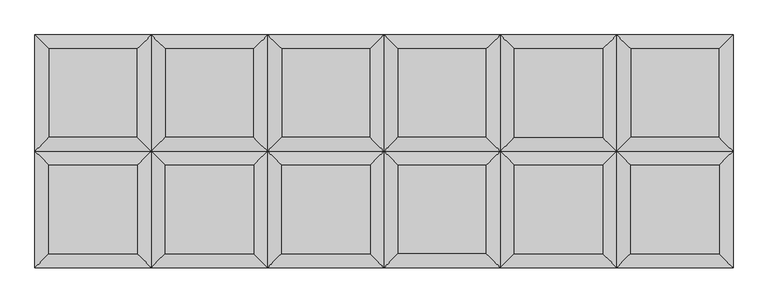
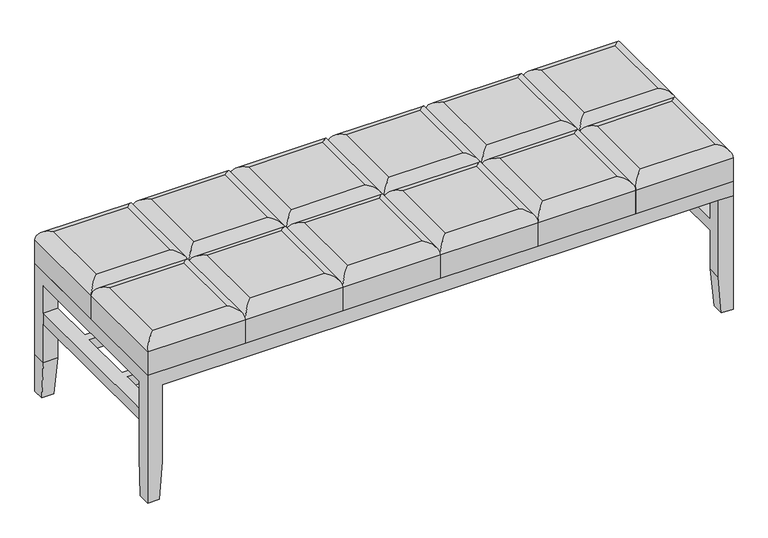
"""IFC4 building model written with IfcOpenShell, lengths in millimetres: furniture geometry, Coalesse_AM_Seating_Bench_Passerelle : 20D x 60W."""

from ifc_helpers import new_model, si_unit, frame, origin, place, context, project, spatial, ellipse_curve, faceted_brep, source, transform, mapped, element, save
from ifc_brep_helpers import plane_surface, cylinder_surface, advanced_brep


def furniture_b1196c01(model_context):
    return source(origin(), model_context, "Body", "SolidModel", [
        advanced_brep(
        [(-440.4626774, -266.0027195, 446.5766733), (-440.4626774, -73.0922303, 446.5766733), (-633.3731666, -73.0922303, 446.5766733), (-633.3731666, -266.0027195, 446.5766733), (-409.917922, -42.5474749, 351.3266733), (-409.917922, -296.5474749, 351.3266733), (-663.917922, -296.5474749, 351.3266733), (-663.917922, -42.5474749, 351.3266733), (-409.917922, -42.5474749, 416.0319179), (-409.917922, -296.5474749, 416.0319179), (-663.917922, -296.5474749, 416.0319179), (-663.917922, -42.5474749, 416.0319179)],
        [
            (0, 1),
            (1, 2),
            (2, 3),
            (3, 0),
            (4, 5),
            (5, 6),
            (6, 7),
            (7, 4),
            (8, 1, ellipse_curve(frame((-440.4626774, -73.0922303, 416.0319179), z_axis=(0.7071067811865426, -0.7071067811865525, 0.0), x_axis=(0.7071067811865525, 0.7071067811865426, 0.0)), 43.1968073, 30.5447554)),
            (0, 9, ellipse_curve(frame((-440.4626774, -266.0027195, 416.0319179), z_axis=(0.7071067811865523, 0.7071067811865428, 0.0), x_axis=(-0.7071067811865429, 0.7071067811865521, 0.0)), 43.1968073, 30.5447554)),
            (9, 8),
            (9, 5),
            (4, 8),
            (3, 10, ellipse_curve(frame((-633.3731666, -266.0027195, 416.0319179), z_axis=(0.7071067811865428, -0.7071067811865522, 0.0), x_axis=(0.7071067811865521, 0.7071067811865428, 0.0)), 43.1968073, 30.5447554)),
            (10, 9),
            (10, 6),
            (2, 11, ellipse_curve(frame((-633.3731666, -73.0922303, 416.0319179), z_axis=(-0.7071067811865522, -0.7071067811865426, 0.0), x_axis=(0.7071067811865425, -0.7071067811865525, 0.0)), 43.1968073, 30.5447554)),
            (11, 10),
            (11, 7),
            (8, 11),
        ],
        [
            plane_surface(frame((-625.817922, -80.6474749, 446.5766733), z_axis=(0.0, 0.0, 1.0), x_axis=(-1.0, 0.0, 0.0))),
            plane_surface(frame((-625.817922, -80.6474749, 351.3266733), z_axis=(0.0, 0.0, -1.0), x_axis=(1.0, 0.0, 0.0))),
            cylinder_surface(frame((-440.4626774, -42.5474749, 416.0319179), z_axis=(0.0, 1.0, 0.0), x_axis=(1.0, 0.0, 0.0)), 30.5447554),
            plane_surface(frame((-409.917922, -42.5474749, 416.0319179), z_axis=(1.0, 0.0, 0.0), x_axis=(0.0, -1.0, 0.0))),
            cylinder_surface(frame((-409.917922, -266.0027195, 416.0319179), z_axis=(1.0, 0.0, 0.0), x_axis=(0.0, -1.0, 0.0)), 30.5447554),
            plane_surface(frame((-409.917922, -296.5474749, 416.0319179), z_axis=(0.0, -1.0, 0.0), x_axis=(-1.0, 0.0, 0.0))),
            cylinder_surface(frame((-633.3731666, -296.5474749, 416.0319179), z_axis=(0.0, -1.0, 0.0), x_axis=(-1.0, 0.0, 0.0)), 30.5447554),
            plane_surface(frame((-663.917922, -296.5474749, 416.0319179), z_axis=(-1.0, 0.0, 0.0), x_axis=(0.0, 1.0, 0.0))),
            cylinder_surface(frame((-663.917922, -73.0922303, 416.0319179), z_axis=(-1.0, 0.0, 0.0), x_axis=(0.0, 1.0, 0.0)), 30.5447554),
            plane_surface(frame((-663.917922, -42.5474749, 416.0319179), z_axis=(0.0, 1.0, 0.0), x_axis=(1.0, 0.0, 0.0))),
        ],
        [
            (0, [[1, 2, 3, 4]]),
            (1, [[5, 6, 7, 8]]),
            (2, [[9, -1, 10, 11]]),
            (3, [[-11, 12, -5, 13]]),
            (4, [[-10, -4, 14, 15]]),
            (5, [[-12, -15, 16, -6]]),
            (6, [[-14, -3, 17, 18]]),
            (7, [[-16, -18, 19, -7]]),
            (8, [[-9, 20, -17, -2]]),
            (9, [[-13, -8, -19, -20]]),
        ],
    ),
        advanced_brep(
        [(-186.4626774, -266.0027195, 446.5766733), (-186.4626774, -73.0922303, 446.5766733), (-379.3731666, -73.0922303, 446.5766733), (-379.3731666, -266.0027195, 446.5766733), (-155.917922, -42.5474749, 351.3266733), (-155.917922, -296.5474749, 351.3266733), (-409.917922, -296.5474749, 351.3266733), (-409.917922, -42.5474749, 351.3266733), (-155.917922, -42.5474749, 416.0319179), (-155.917922, -296.5474749, 416.0319179), (-409.917922, -296.5474749, 416.0319179), (-409.917922, -42.5474749, 416.0319179)],
        [
            (0, 1),
            (1, 2),
            (2, 3),
            (3, 0),
            (4, 5),
            (5, 6),
            (6, 7),
            (7, 4),
            (8, 1, ellipse_curve(frame((-186.4626774, -73.0922303, 416.0319179), z_axis=(0.7071067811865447, -0.7071067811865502, 0.0), x_axis=(0.7071067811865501, 0.7071067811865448, 0.0)), 43.1968073, 30.5447554)),
            (0, 9, ellipse_curve(frame((-186.4626774, -266.0027195, 416.0319179), z_axis=(0.7071067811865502, 0.7071067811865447, 0.0), x_axis=(-0.7071067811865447, 0.7071067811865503, 0.0)), 43.1968073, 30.5447554)),
            (9, 8),
            (9, 5),
            (4, 8),
            (3, 10, ellipse_curve(frame((-379.3731666, -266.0027195, 416.0319179), z_axis=(0.7071067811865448, -0.7071067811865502, 0.0), x_axis=(0.7071067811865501, 0.7071067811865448, 0.0)), 43.1968073, 30.5447554)),
            (10, 9),
            (10, 6),
            (2, 11, ellipse_curve(frame((-379.3731666, -73.0922303, 416.0319179), z_axis=(-0.7071067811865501, -0.7071067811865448, 0.0), x_axis=(0.7071067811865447, -0.7071067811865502, 0.0)), 43.1968073, 30.5447554)),
            (11, 10),
            (11, 7),
            (8, 11),
        ],
        [
            plane_surface(frame((-371.817922, -80.6474749, 446.5766733), z_axis=(0.0, 0.0, 1.0), x_axis=(-1.0, 0.0, 0.0))),
            plane_surface(frame((-371.817922, -80.6474749, 351.3266733), z_axis=(0.0, 0.0, -1.0), x_axis=(1.0, 0.0, 0.0))),
            cylinder_surface(frame((-186.4626774, -42.5474749, 416.0319179), z_axis=(0.0, 1.0, 0.0), x_axis=(1.0, 0.0, 0.0)), 30.5447554),
            plane_surface(frame((-155.917922, -42.5474749, 416.0319179), z_axis=(1.0, 0.0, 0.0), x_axis=(0.0, -1.0, 0.0))),
            cylinder_surface(frame((-155.917922, -266.0027195, 416.0319179), z_axis=(1.0, 0.0, 0.0), x_axis=(0.0, -1.0, 0.0)), 30.5447554),
            plane_surface(frame((-155.917922, -296.5474749, 416.0319179), z_axis=(0.0, -1.0, 0.0), x_axis=(-1.0, 0.0, 0.0))),
            cylinder_surface(frame((-379.3731666, -296.5474749, 416.0319179), z_axis=(0.0, -1.0, 0.0), x_axis=(-1.0, 0.0, 0.0)), 30.5447554),
            plane_surface(frame((-409.917922, -296.5474749, 416.0319179), z_axis=(-1.0, 0.0, 0.0), x_axis=(0.0, 1.0, 0.0))),
            cylinder_surface(frame((-409.917922, -73.0922303, 416.0319179), z_axis=(-1.0, 0.0, 0.0), x_axis=(0.0, 1.0, 0.0)), 30.5447554),
            plane_surface(frame((-409.917922, -42.5474749, 416.0319179), z_axis=(0.0, 1.0, 0.0), x_axis=(1.0, 0.0, 0.0))),
        ],
        [
            (0, [[1, 2, 3, 4]]),
            (1, [[5, 6, 7, 8]]),
            (2, [[9, -1, 10, 11]]),
            (3, [[-11, 12, -5, 13]]),
            (4, [[-10, -4, 14, 15]]),
            (5, [[-12, -15, 16, -6]]),
            (6, [[-14, -3, 17, 18]]),
            (7, [[-16, -18, 19, -7]]),
            (8, [[-9, 20, -17, -2]]),
            (9, [[-13, -8, -19, -20]]),
        ],
    ),
        advanced_brep(
        [(67.5373226, -266.0027195, 446.5766733), (67.5373226, -73.0922303, 446.5766733), (-125.3731666, -73.0922303, 446.5766733), (-125.3731666, -266.0027195, 446.5766733), (98.082078, -42.5474749, 351.3266733), (98.082078, -296.5474749, 351.3266733), (-155.917922, -296.5474749, 351.3266733), (-155.917922, -42.5474749, 351.3266733), (98.082078, -42.5474749, 416.0319179), (98.082078, -296.5474749, 416.0319179), (-155.917922, -296.5474749, 416.0319179), (-155.917922, -42.5474749, 416.0319179)],
        [
            (0, 1),
            (1, 2),
            (2, 3),
            (3, 0),
            (4, 5),
            (5, 6),
            (6, 7),
            (7, 4),
            (8, 1, ellipse_curve(frame((67.5373226, -73.0922303, 416.0319179), z_axis=(0.7071067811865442, -0.7071067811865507, 0.0), x_axis=(0.7071067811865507, 0.7071067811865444, 0.0)), 43.1968073, 30.5447554)),
            (0, 9, ellipse_curve(frame((67.5373226, -266.0027195, 416.0319179), z_axis=(0.7071067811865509, 0.7071067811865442, 0.0), x_axis=(-0.7071067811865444, 0.7071067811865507, 0.0)), 43.1968073, 30.5447554)),
            (9, 8),
            (9, 5),
            (4, 8),
            (3, 10, ellipse_curve(frame((-125.3731666, -266.0027195, 416.0319179), z_axis=(0.7071067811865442, -0.7071067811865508, 0.0), x_axis=(0.7071067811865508, 0.7071067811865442, 0.0)), 43.1968073, 30.5447554)),
            (10, 9),
            (10, 6),
            (2, 11, ellipse_curve(frame((-125.3731666, -73.0922303, 416.0319179), z_axis=(-0.7071067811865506, -0.7071067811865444, 0.0), x_axis=(0.7071067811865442, -0.7071067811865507, 0.0)), 43.1968073, 30.5447554)),
            (11, 10),
            (11, 7),
            (8, 11),
        ],
        [
            plane_surface(frame((-117.817922, -80.6474749, 446.5766733), z_axis=(0.0, 0.0, 1.0), x_axis=(-1.0, 0.0, 0.0))),
            plane_surface(frame((-117.817922, -80.6474749, 351.3266733), z_axis=(0.0, 0.0, -1.0), x_axis=(1.0, 0.0, 0.0))),
            cylinder_surface(frame((67.5373226, -42.5474749, 416.0319179), z_axis=(0.0, 1.0, 0.0), x_axis=(1.0, 0.0, 0.0)), 30.5447554),
            plane_surface(frame((98.082078, -42.5474749, 416.0319179), z_axis=(1.0, 0.0, 0.0), x_axis=(0.0, -1.0, 0.0))),
            cylinder_surface(frame((98.082078, -266.0027195, 416.0319179), z_axis=(1.0, 0.0, 0.0), x_axis=(0.0, -1.0, 0.0)), 30.5447554),
            plane_surface(frame((98.082078, -296.5474749, 416.0319179), z_axis=(0.0, -1.0, 0.0), x_axis=(-1.0, 0.0, 0.0))),
            cylinder_surface(frame((-125.3731666, -296.5474749, 416.0319179), z_axis=(0.0, -1.0, 0.0), x_axis=(-1.0, 0.0, 0.0)), 30.5447554),
            plane_surface(frame((-155.917922, -296.5474749, 416.0319179), z_axis=(-1.0, 0.0, 0.0), x_axis=(0.0, 1.0, 0.0))),
            cylinder_surface(frame((-155.917922, -73.0922303, 416.0319179), z_axis=(-1.0, 0.0, 0.0), x_axis=(0.0, 1.0, 0.0)), 30.5447554),
            plane_surface(frame((-155.917922, -42.5474749, 416.0319179), z_axis=(0.0, 1.0, 0.0), x_axis=(1.0, 0.0, 0.0))),
        ],
        [
            (0, [[1, 2, 3, 4]]),
            (1, [[5, 6, 7, 8]]),
            (2, [[9, -1, 10, 11]]),
            (3, [[-11, 12, -5, 13]]),
            (4, [[-10, -4, 14, 15]]),
            (5, [[-12, -15, 16, -6]]),
            (6, [[-14, -3, 17, 18]]),
            (7, [[-16, -18, 19, -7]]),
            (8, [[-9, 20, -17, -2]]),
            (9, [[-13, -8, -19, -20]]),
        ],
    ),
        advanced_brep(
        [(352.082078, -42.5474749, 416.0319179), (321.5373226, -73.0922303, 446.5766733), (321.5373226, -266.0027195, 446.5766733), (352.082078, -296.5474749, 416.0319179), (352.082078, -296.5474749, 351.3266733), (352.082078, -42.5474749, 351.3266733), (128.6268334, -266.0027195, 446.5766733), (98.082078, -296.5474749, 416.0319179), (98.082078, -296.5474749, 351.3266733), (128.6268334, -73.0922303, 446.5766733), (98.082078, -42.5474749, 416.0319179), (98.082078, -42.5474749, 351.3266733)],
        [
            (0, 1, ellipse_curve(frame((321.5373226, -73.0922303, 416.0319179), z_axis=(0.7071067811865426, -0.7071067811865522, 0.0), x_axis=(0.7071067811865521, 0.7071067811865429, 0.0)), 43.1968073, 30.5447554)),
            (1, 2),
            (2, 3, ellipse_curve(frame((321.5373226, -266.0027195, 416.0319179), z_axis=(0.7071067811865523, 0.7071067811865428, 0.0), x_axis=(-0.7071067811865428, 0.7071067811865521, 0.0)), 43.1968073, 30.5447554)),
            (3, 0),
            (3, 4),
            (4, 5),
            (5, 0),
            (2, 6),
            (6, 7, ellipse_curve(frame((128.6268334, -266.0027195, 416.0319179), z_axis=(0.7071067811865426, -0.7071067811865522, 0.0), x_axis=(0.7071067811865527, 0.7071067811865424, 0.0)), 43.1968073, 30.5447554)),
            (7, 3),
            (7, 8),
            (8, 4),
            (6, 9),
            (9, 10, ellipse_curve(frame((128.6268334, -73.0922303, 416.0319179), z_axis=(-0.7071067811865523, -0.7071067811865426, 0.0), x_axis=(0.7071067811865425, -0.7071067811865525, 0.0)), 43.1968073, 30.5447554)),
            (10, 7),
            (10, 11),
            (11, 8),
            (1, 9),
            (0, 10),
            (5, 11),
        ],
        [
            cylinder_surface(frame((321.5373226, -42.5474749, 416.0319179), z_axis=(0.0, 1.0, 0.0), x_axis=(1.0, 0.0, 0.0)), 30.5447554),
            plane_surface(frame((352.082078, -42.5474749, 416.0319179), z_axis=(1.0, 0.0, 0.0), x_axis=(0.0, -1.0, 0.0))),
            cylinder_surface(frame((352.082078, -266.0027195, 416.0319179), z_axis=(1.0, 0.0, 0.0), x_axis=(0.0, -1.0, 0.0)), 30.5447554),
            plane_surface(frame((352.082078, -296.5474749, 416.0319179), z_axis=(0.0, -1.0, 0.0), x_axis=(-1.0, 0.0, 0.0))),
            cylinder_surface(frame((128.6268334, -296.5474749, 416.0319179), z_axis=(0.0, -1.0, 0.0), x_axis=(-1.0, 0.0, 0.0)), 30.5447554),
            plane_surface(frame((98.082078, -296.5474749, 416.0319179), z_axis=(-1.0, 0.0, 0.0), x_axis=(0.0, 1.0, 0.0))),
            plane_surface(frame((136.182078, -80.6474749, 446.5766733), z_axis=(0.0, 0.0, 1.0), x_axis=(1.0, 0.0, 0.0))),
            cylinder_surface(frame((98.082078, -73.0922303, 416.0319179), z_axis=(-1.0, 0.0, 0.0), x_axis=(0.0, 1.0, 0.0)), 30.5447554),
            plane_surface(frame((98.082078, -42.5474749, 416.0319179), z_axis=(0.0, 1.0, 0.0), x_axis=(1.0, 0.0, 0.0))),
            plane_surface(frame((98.082078, -42.5474749, 351.3266733), z_axis=(0.0, 0.0, -1.0), x_axis=(1.0, 0.0, 0.0))),
        ],
        [
            (0, [[1, 2, 3, 4]]),
            (1, [[-4, 5, 6, 7]]),
            (2, [[-3, 8, 9, 10]]),
            (3, [[-5, -10, 11, 12]]),
            (4, [[-9, 13, 14, 15]]),
            (5, [[-11, -15, 16, 17]]),
            (6, [[-2, 18, -13, -8]]),
            (7, [[-1, 19, -14, -18]]),
            (8, [[-7, 20, -16, -19]]),
            (9, [[-6, -12, -17, -20]]),
        ],
    ),
        advanced_brep(
        [(575.5373226, -266.0027195, 446.5766733), (575.5373226, -73.0922303, 446.5766733), (382.6268334, -73.0922303, 446.5766733), (382.6268334, -266.0027195, 446.5766733), (606.082078, -42.5474749, 351.3266733), (606.082078, -296.5474749, 351.3266733), (352.082078, -296.5474749, 351.3266733), (352.082078, -42.5474749, 351.3266733), (606.082078, -42.5474749, 416.0319179), (606.082078, -296.5474749, 416.0319179), (352.082078, -296.5474749, 416.0319179), (352.082078, -42.5474749, 416.0319179)],
        [
            (0, 1),
            (1, 2),
            (2, 3),
            (3, 0),
            (4, 5),
            (5, 6),
            (6, 7),
            (7, 4),
            (8, 1, ellipse_curve(frame((575.5373226, -73.0922303, 416.0319179), z_axis=(0.7071067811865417, -0.7071067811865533, 0.0), x_axis=(0.7071067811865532, 0.7071067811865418, 0.0)), 43.1968073, 30.5447554)),
            (0, 9, ellipse_curve(frame((575.5373226, -266.0027195, 416.0319179), z_axis=(0.7071067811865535, 0.7071067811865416, 0.0), x_axis=(-0.7071067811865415, 0.7071067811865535, 0.0)), 43.1968073, 30.5447554)),
            (9, 8),
            (9, 5),
            (4, 8),
            (3, 10, ellipse_curve(frame((382.6268334, -266.0027195, 416.0319179), z_axis=(0.7071067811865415, -0.7071067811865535, 0.0), x_axis=(0.7071067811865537, 0.7071067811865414, 0.0)), 43.1968073, 30.5447554)),
            (10, 9),
            (10, 6),
            (2, 11, ellipse_curve(frame((382.6268334, -73.0922303, 416.0319179), z_axis=(-0.7071067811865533, -0.7071067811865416, 0.0), x_axis=(0.7071067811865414, -0.7071067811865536, 0.0)), 43.1968073, 30.5447554)),
            (11, 10),
            (11, 7),
            (8, 11),
        ],
        [
            plane_surface(frame((390.182078, -80.6474749, 446.5766733), z_axis=(0.0, 0.0, 1.0), x_axis=(-1.0, 0.0, 0.0))),
            plane_surface(frame((390.182078, -80.6474749, 351.3266733), z_axis=(0.0, 0.0, -1.0), x_axis=(1.0, 0.0, 0.0))),
            cylinder_surface(frame((575.5373226, -42.5474749, 416.0319179), z_axis=(0.0, 1.0, 0.0), x_axis=(1.0, 0.0, 0.0)), 30.5447554),
            plane_surface(frame((606.082078, -42.5474749, 416.0319179), z_axis=(1.0, 0.0, 0.0), x_axis=(0.0, -1.0, 0.0))),
            cylinder_surface(frame((606.082078, -266.0027195, 416.0319179), z_axis=(1.0, 0.0, 0.0), x_axis=(0.0, -1.0, 0.0)), 30.5447554),
            plane_surface(frame((606.082078, -296.5474749, 416.0319179), z_axis=(0.0, -1.0, 0.0), x_axis=(-1.0, 0.0, 0.0))),
            cylinder_surface(frame((382.6268334, -296.5474749, 416.0319179), z_axis=(0.0, -1.0, 0.0), x_axis=(-1.0, 0.0, 0.0)), 30.5447554),
            plane_surface(frame((352.082078, -296.5474749, 416.0319179), z_axis=(-1.0, 0.0, 0.0), x_axis=(0.0, 1.0, 0.0))),
            cylinder_surface(frame((352.082078, -73.0922303, 416.0319179), z_axis=(-1.0, 0.0, 0.0), x_axis=(0.0, 1.0, 0.0)), 30.5447554),
            plane_surface(frame((352.082078, -42.5474749, 416.0319179), z_axis=(0.0, 1.0, 0.0), x_axis=(1.0, 0.0, 0.0))),
        ],
        [
            (0, [[1, 2, 3, 4]]),
            (1, [[5, 6, 7, 8]]),
            (2, [[9, -1, 10, 11]]),
            (3, [[-11, 12, -5, 13]]),
            (4, [[-10, -4, 14, 15]]),
            (5, [[-12, -15, 16, -6]]),
            (6, [[-14, -3, 17, 18]]),
            (7, [[-16, -18, 19, -7]]),
            (8, [[-9, 20, -17, -2]]),
            (9, [[-13, -8, -19, -20]]),
        ],
    ),
        advanced_brep(
        [(829.5373226, -266.0027195, 446.5766733), (829.5373226, -73.0922303, 446.5766733), (636.6268334, -73.0922303, 446.5766733), (636.6268334, -266.0027195, 446.5766733), (860.082078, -42.5474749, 351.3266733), (860.082078, -296.5474749, 351.3266733), (606.082078, -296.5474749, 351.3266733), (606.082078, -42.5474749, 351.3266733), (860.082078, -42.5474749, 416.0319179), (860.082078, -296.5474749, 416.0319179), (606.082078, -296.5474749, 416.0319179), (606.082078, -42.5474749, 416.0319179)],
        [
            (0, 1),
            (1, 2),
            (2, 3),
            (3, 0),
            (4, 5),
            (5, 6),
            (6, 7),
            (7, 4),
            (8, 1, ellipse_curve(frame((829.5373226, -73.0922303, 416.0319179), z_axis=(0.7071067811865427, -0.7071067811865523, 0.0), x_axis=(0.7071067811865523, 0.7071067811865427, 0.0)), 43.1968073, 30.5447554)),
            (0, 9, ellipse_curve(frame((829.5373226, -266.0027195, 416.0319179), z_axis=(0.7071067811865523, 0.7071067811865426, 0.0), x_axis=(-0.7071067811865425, 0.7071067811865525, 0.0)), 43.1968073, 30.5447554)),
            (9, 8),
            (9, 5),
            (4, 8),
            (3, 10, ellipse_curve(frame((636.6268334, -266.0027195, 416.0319179), z_axis=(0.7071067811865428, -0.7071067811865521, 0.0), x_axis=(0.7071067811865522, 0.7071067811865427, 0.0)), 43.1968073, 30.5447554)),
            (10, 9),
            (10, 6),
            (2, 11, ellipse_curve(frame((636.6268334, -73.0922303, 416.0319179), z_axis=(-0.7071067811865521, -0.7071067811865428, 0.0), x_axis=(0.7071067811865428, -0.7071067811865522, 0.0)), 43.1968073, 30.5447554)),
            (11, 10),
            (11, 7),
            (8, 11),
        ],
        [
            plane_surface(frame((644.182078, -80.6474749, 446.5766733), z_axis=(0.0, 0.0, 1.0), x_axis=(-1.0, 0.0, 0.0))),
            plane_surface(frame((644.182078, -80.6474749, 351.3266733), z_axis=(0.0, 0.0, -1.0), x_axis=(1.0, 0.0, 0.0))),
            cylinder_surface(frame((829.5373226, -42.5474749, 416.0319179), z_axis=(0.0, 1.0, 0.0), x_axis=(1.0, 0.0, 0.0)), 30.5447554),
            plane_surface(frame((860.082078, -42.5474749, 416.0319179), z_axis=(1.0, 0.0, 0.0), x_axis=(0.0, -1.0, 0.0))),
            cylinder_surface(frame((860.082078, -266.0027195, 416.0319179), z_axis=(1.0, 0.0, 0.0), x_axis=(0.0, -1.0, 0.0)), 30.5447554),
            plane_surface(frame((860.082078, -296.5474749, 416.0319179), z_axis=(0.0, -1.0, 0.0), x_axis=(-1.0, 0.0, 0.0))),
            cylinder_surface(frame((636.6268334, -296.5474749, 416.0319179), z_axis=(0.0, -1.0, 0.0), x_axis=(-1.0, 0.0, 0.0)), 30.5447554),
            plane_surface(frame((606.082078, -296.5474749, 416.0319179), z_axis=(-1.0, 0.0, 0.0), x_axis=(0.0, 1.0, 0.0))),
            cylinder_surface(frame((606.082078, -73.0922303, 416.0319179), z_axis=(-1.0, 0.0, 0.0), x_axis=(0.0, 1.0, 0.0)), 30.5447554),
            plane_surface(frame((606.082078, -42.5474749, 416.0319179), z_axis=(0.0, 1.0, 0.0), x_axis=(1.0, 0.0, 0.0))),
        ],
        [
            (0, [[1, 2, 3, 4]]),
            (1, [[5, 6, 7, 8]]),
            (2, [[9, -1, 10, 11]]),
            (3, [[-11, 12, -5, 13]]),
            (4, [[-10, -4, 14, 15]]),
            (5, [[-12, -15, 16, -6]]),
            (6, [[-14, -3, 17, 18]]),
            (7, [[-16, -18, 19, -7]]),
            (8, [[-9, 20, -17, -2]]),
            (9, [[-13, -8, -19, -20]]),
        ],
    ),
        advanced_brep(
        [(-409.917922, 211.4525251, 416.0319179), (-440.4626774, 180.9077697, 446.5766733), (-440.4626774, -12.0027195, 446.5766733), (-409.917922, -42.5474749, 416.0319179), (-409.917922, -42.5474749, 351.3266733), (-409.917922, 211.4525251, 351.3266733), (-633.3731666, -12.0027195, 446.5766733), (-663.917922, -42.5474749, 416.0319179), (-663.917922, -42.5474749, 351.3266733), (-633.3731666, 180.9077697, 446.5766733), (-663.917922, 211.4525251, 416.0319179), (-663.917922, 211.4525251, 351.3266733)],
        [
            (0, 1, ellipse_curve(frame((-440.4626774, 180.9077697, 416.0319179), z_axis=(0.7071067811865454, -0.7071067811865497, 0.0), x_axis=(0.7071067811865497, 0.7071067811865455, 0.0)), 43.1968073, 30.5447554)),
            (1, 2),
            (2, 3, ellipse_curve(frame((-440.4626774, -12.0027195, 416.0319179), z_axis=(0.707106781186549, 0.707106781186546, 0.0), x_axis=(-0.707106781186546, 0.707106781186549, 0.0)), 43.1968073, 30.5447554)),
            (3, 0),
            (3, 4),
            (4, 5),
            (5, 0),
            (2, 6),
            (6, 7, ellipse_curve(frame((-633.3731666, -12.0027195, 416.0319179), z_axis=(0.7071067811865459, -0.7071067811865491, 0.0), x_axis=(0.7071067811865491, 0.7071067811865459, 0.0)), 43.1968073, 30.5447554)),
            (7, 3),
            (7, 8),
            (8, 4),
            (6, 9),
            (9, 10, ellipse_curve(frame((-633.3731666, 180.9077697, 416.0319179), z_axis=(-0.7071067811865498, -0.7071067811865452, 0.0), x_axis=(0.7071067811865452, -0.7071067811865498, 0.0)), 43.1968073, 30.5447554)),
            (10, 7),
            (10, 11),
            (11, 8),
            (1, 9),
            (0, 10),
            (5, 11),
        ],
        [
            cylinder_surface(frame((-440.4626774, 211.4525251, 416.0319179), z_axis=(0.0, 1.0, 0.0), x_axis=(1.0, 0.0, 0.0)), 30.5447554),
            plane_surface(frame((-409.917922, 211.4525251, 416.0319179), z_axis=(1.0, 0.0, 0.0), x_axis=(0.0, -1.0, 0.0))),
            cylinder_surface(frame((-409.917922, -12.0027195, 416.0319179), z_axis=(1.0, 0.0, 0.0), x_axis=(0.0, -1.0, 0.0)), 30.5447554),
            plane_surface(frame((-409.917922, -42.5474749, 416.0319179), z_axis=(0.0, -1.0, 0.0), x_axis=(-1.0, 0.0, 0.0))),
            cylinder_surface(frame((-633.3731666, -42.5474749, 416.0319179), z_axis=(0.0, -1.0, 0.0), x_axis=(-1.0, 0.0, 0.0)), 30.5447554),
            plane_surface(frame((-663.917922, -42.5474749, 416.0319179), z_axis=(-1.0, 0.0, 0.0), x_axis=(0.0, 1.0, 0.0))),
            plane_surface(frame((-625.817922, 173.3525251, 446.5766733), z_axis=(0.0, 0.0, 1.0), x_axis=(1.0, 0.0, 0.0))),
            cylinder_surface(frame((-663.917922, 180.9077697, 416.0319179), z_axis=(-1.0, 0.0, 0.0), x_axis=(0.0, 1.0, 0.0)), 30.5447554),
            plane_surface(frame((-663.917922, 211.4525251, 416.0319179), z_axis=(0.0, 1.0, 0.0), x_axis=(1.0, 0.0, 0.0))),
            plane_surface(frame((-663.917922, 211.4525251, 351.3266733), z_axis=(0.0, 0.0, -1.0), x_axis=(1.0, 0.0, 0.0))),
        ],
        [
            (0, [[1, 2, 3, 4]]),
            (1, [[-4, 5, 6, 7]]),
            (2, [[-3, 8, 9, 10]]),
            (3, [[-5, -10, 11, 12]]),
            (4, [[-9, 13, 14, 15]]),
            (5, [[-11, -15, 16, 17]]),
            (6, [[-2, 18, -13, -8]]),
            (7, [[-1, 19, -14, -18]]),
            (8, [[-7, 20, -16, -19]]),
            (9, [[-6, -12, -17, -20]]),
        ],
    ),
        advanced_brep(
        [(-155.917922, 211.4525251, 416.0319179), (-186.4626774, 180.9077697, 446.5766733), (-186.4626774, -12.0027195, 446.5766733), (-155.917922, -42.5474749, 416.0319179), (-155.917922, -42.5474749, 351.3266733), (-155.917922, 211.4525251, 351.3266733), (-379.3731666, -12.0027195, 446.5766733), (-409.917922, -42.5474749, 416.0319179), (-409.917922, -42.5474749, 351.3266733), (-379.3731666, 180.9077697, 446.5766733), (-409.917922, 211.4525251, 416.0319179), (-409.917922, 211.4525251, 351.3266733)],
        [
            (0, 1, ellipse_curve(frame((-186.4626774, 180.9077697, 416.0319179), z_axis=(0.7071067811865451, -0.7071067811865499, 0.0), x_axis=(0.7071067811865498, 0.7071067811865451, 0.0)), 43.1968073, 30.5447554)),
            (1, 2),
            (2, 3, ellipse_curve(frame((-186.4626774, -12.0027195, 416.0319179), z_axis=(0.7071067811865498, 0.7071067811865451, 0.0), x_axis=(-0.707106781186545, 0.7071067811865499, 0.0)), 43.1968073, 30.5447554)),
            (3, 0),
            (3, 4),
            (4, 5),
            (5, 0),
            (2, 6),
            (6, 7, ellipse_curve(frame((-379.3731666, -12.0027195, 416.0319179), z_axis=(0.707106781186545, -0.7071067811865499, 0.0), x_axis=(0.7071067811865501, 0.7071067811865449, 0.0)), 43.1968073, 30.5447554)),
            (7, 3),
            (7, 8),
            (8, 4),
            (6, 9),
            (9, 10, ellipse_curve(frame((-379.3731666, 180.9077697, 416.0319179), z_axis=(-0.70710678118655, -0.7071067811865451, 0.0), x_axis=(0.7071067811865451, -0.7071067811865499, 0.0)), 43.1968073, 30.5447554)),
            (10, 7),
            (10, 11),
            (11, 8),
            (1, 9),
            (0, 10),
            (5, 11),
        ],
        [
            cylinder_surface(frame((-186.4626774, 211.4525251, 416.0319179), z_axis=(0.0, 1.0, 0.0), x_axis=(1.0, 0.0, 0.0)), 30.5447554),
            plane_surface(frame((-155.917922, 211.4525251, 416.0319179), z_axis=(1.0, 0.0, 0.0), x_axis=(0.0, -1.0, 0.0))),
            cylinder_surface(frame((-155.917922, -12.0027195, 416.0319179), z_axis=(1.0, 0.0, 0.0), x_axis=(0.0, -1.0, 0.0)), 30.5447554),
            plane_surface(frame((-155.917922, -42.5474749, 416.0319179), z_axis=(0.0, -1.0, 0.0), x_axis=(-1.0, 0.0, 0.0))),
            cylinder_surface(frame((-379.3731666, -42.5474749, 416.0319179), z_axis=(0.0, -1.0, 0.0), x_axis=(-1.0, 0.0, 0.0)), 30.5447554),
            plane_surface(frame((-409.917922, -42.5474749, 416.0319179), z_axis=(-1.0, 0.0, 0.0), x_axis=(0.0, 1.0, 0.0))),
            plane_surface(frame((-371.817922, 173.3525251, 446.5766733), z_axis=(0.0, 0.0, 1.0), x_axis=(1.0, 0.0, 0.0))),
            cylinder_surface(frame((-409.917922, 180.9077697, 416.0319179), z_axis=(-1.0, 0.0, 0.0), x_axis=(0.0, 1.0, 0.0)), 30.5447554),
            plane_surface(frame((-409.917922, 211.4525251, 416.0319179), z_axis=(0.0, 1.0, 0.0), x_axis=(1.0, 0.0, 0.0))),
            plane_surface(frame((-409.917922, 211.4525251, 351.3266733), z_axis=(0.0, 0.0, -1.0), x_axis=(1.0, 0.0, 0.0))),
        ],
        [
            (0, [[1, 2, 3, 4]]),
            (1, [[-4, 5, 6, 7]]),
            (2, [[-3, 8, 9, 10]]),
            (3, [[-5, -10, 11, 12]]),
            (4, [[-9, 13, 14, 15]]),
            (5, [[-11, -15, 16, 17]]),
            (6, [[-2, 18, -13, -8]]),
            (7, [[-1, 19, -14, -18]]),
            (8, [[-7, 20, -16, -19]]),
            (9, [[-6, -12, -17, -20]]),
        ],
    ),
        advanced_brep(
        [(98.082078, 211.4525251, 416.0319179), (67.5373226, 180.9077697, 446.5766733), (67.5373226, -12.0027195, 446.5766733), (98.082078, -42.5474749, 416.0319179), (98.082078, -42.5474749, 351.3266733), (98.082078, 211.4525251, 351.3266733), (-125.3731666, -12.0027195, 446.5766733), (-155.917922, -42.5474749, 416.0319179), (-155.917922, -42.5474749, 351.3266733), (-125.3731666, 180.9077697, 446.5766733), (-155.917922, 211.4525251, 416.0319179), (-155.917922, 211.4525251, 351.3266733)],
        [
            (0, 1, ellipse_curve(frame((67.5373226, 180.9077697, 416.0319179), z_axis=(0.707106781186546, -0.707106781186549, 0.0), x_axis=(0.7071067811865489, 0.7071067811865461, 0.0)), 43.1968073, 30.5447554)),
            (1, 2),
            (2, 3, ellipse_curve(frame((67.5373226, -12.0027195, 416.0319179), z_axis=(0.7071067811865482, 0.7071067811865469, 0.0), x_axis=(-0.707106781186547, 0.7071067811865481, 0.0)), 43.1968073, 30.5447554)),
            (3, 0),
            (3, 4),
            (4, 5),
            (5, 0),
            (2, 6),
            (6, 7, ellipse_curve(frame((-125.3731666, -12.0027195, 416.0319179), z_axis=(0.7071067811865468, -0.7071067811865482, 0.0), x_axis=(0.7071067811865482, 0.7071067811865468, 0.0)), 43.1968073, 30.5447554)),
            (7, 3),
            (7, 8),
            (8, 4),
            (6, 9),
            (9, 10, ellipse_curve(frame((-125.3731666, 180.9077697, 416.0319179), z_axis=(-0.707106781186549, -0.7071067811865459, 0.0), x_axis=(0.7071067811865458, -0.7071067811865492, 0.0)), 43.1968073, 30.5447554)),
            (10, 7),
            (10, 11),
            (11, 8),
            (1, 9),
            (0, 10),
            (5, 11),
        ],
        [
            cylinder_surface(frame((67.5373226, 211.4525251, 416.0319179), z_axis=(0.0, 1.0, 0.0), x_axis=(1.0, 0.0, 0.0)), 30.5447554),
            plane_surface(frame((98.082078, 211.4525251, 416.0319179), z_axis=(1.0, 0.0, 0.0), x_axis=(0.0, -1.0, 0.0))),
            cylinder_surface(frame((98.082078, -12.0027195, 416.0319179), z_axis=(1.0, 0.0, 0.0), x_axis=(0.0, -1.0, 0.0)), 30.5447554),
            plane_surface(frame((98.082078, -42.5474749, 416.0319179), z_axis=(0.0, -1.0, 0.0), x_axis=(-1.0, 0.0, 0.0))),
            cylinder_surface(frame((-125.3731666, -42.5474749, 416.0319179), z_axis=(0.0, -1.0, 0.0), x_axis=(-1.0, 0.0, 0.0)), 30.5447554),
            plane_surface(frame((-155.917922, -42.5474749, 416.0319179), z_axis=(-1.0, 0.0, 0.0), x_axis=(0.0, 1.0, 0.0))),
            plane_surface(frame((-117.817922, 173.3525251, 446.5766733), z_axis=(0.0, 0.0, 1.0), x_axis=(1.0, 0.0, 0.0))),
            cylinder_surface(frame((-155.917922, 180.9077697, 416.0319179), z_axis=(-1.0, 0.0, 0.0), x_axis=(0.0, 1.0, 0.0)), 30.5447554),
            plane_surface(frame((-155.917922, 211.4525251, 416.0319179), z_axis=(0.0, 1.0, 0.0), x_axis=(1.0, 0.0, 0.0))),
            plane_surface(frame((-155.917922, 211.4525251, 351.3266733), z_axis=(0.0, 0.0, -1.0), x_axis=(1.0, 0.0, 0.0))),
        ],
        [
            (0, [[1, 2, 3, 4]]),
            (1, [[-4, 5, 6, 7]]),
            (2, [[-3, 8, 9, 10]]),
            (3, [[-5, -10, 11, 12]]),
            (4, [[-9, 13, 14, 15]]),
            (5, [[-11, -15, 16, 17]]),
            (6, [[-2, 18, -13, -8]]),
            (7, [[-1, 19, -14, -18]]),
            (8, [[-7, 20, -16, -19]]),
            (9, [[-6, -12, -17, -20]]),
        ],
    ),
        advanced_brep(
        [(352.082078, 211.4525251, 416.0319179), (321.5373226, 180.9077697, 446.5766733), (321.5373226, -12.0027195, 446.5766733), (352.082078, -42.5474749, 416.0319179), (352.082078, -42.5474749, 351.3266733), (352.082078, 211.4525251, 351.3266733), (128.6268334, -12.0027195, 446.5766733), (98.082078, -42.5474749, 416.0319179), (98.082078, -42.5474749, 351.3266733), (128.6268334, 180.9077697, 446.5766733), (98.082078, 211.4525251, 416.0319179), (98.082078, 211.4525251, 351.3266733)],
        [
            (0, 1, ellipse_curve(frame((321.5373226, 180.9077697, 416.0319179), z_axis=(0.7071067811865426, -0.7071067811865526, 0.0), x_axis=(0.7071067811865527, 0.7071067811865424, 0.0)), 43.1968073, 30.5447554)),
            (1, 2),
            (2, 3, ellipse_curve(frame((321.5373226, -12.0027195, 416.0319179), z_axis=(0.7071067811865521, 0.7071067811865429, 0.0), x_axis=(-0.7071067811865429, 0.7071067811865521, 0.0)), 43.1968073, 30.5447554)),
            (3, 0),
            (3, 4),
            (4, 5),
            (5, 0),
            (2, 6),
            (6, 7, ellipse_curve(frame((128.6268334, -12.0027195, 416.0319179), z_axis=(0.7071067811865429, -0.707106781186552, 0.0), x_axis=(0.7071067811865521, 0.7071067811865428, 0.0)), 43.1968073, 30.5447554)),
            (7, 3),
            (7, 8),
            (8, 4),
            (6, 9),
            (9, 10, ellipse_curve(frame((128.6268334, 180.9077697, 416.0319179), z_axis=(-0.7071067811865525, -0.7071067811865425, 0.0), x_axis=(0.7071067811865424, -0.7071067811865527, 0.0)), 43.1968073, 30.5447554)),
            (10, 7),
            (10, 11),
            (11, 8),
            (1, 9),
            (0, 10),
            (5, 11),
        ],
        [
            cylinder_surface(frame((321.5373226, 211.4525251, 416.0319179), z_axis=(0.0, 1.0, 0.0), x_axis=(1.0, 0.0, 0.0)), 30.5447554),
            plane_surface(frame((352.082078, 211.4525251, 416.0319179), z_axis=(1.0, 0.0, 0.0), x_axis=(0.0, -1.0, 0.0))),
            cylinder_surface(frame((352.082078, -12.0027195, 416.0319179), z_axis=(1.0, 0.0, 0.0), x_axis=(0.0, -1.0, 0.0)), 30.5447554),
            plane_surface(frame((352.082078, -42.5474749, 416.0319179), z_axis=(0.0, -1.0, 0.0), x_axis=(-1.0, 0.0, 0.0))),
            cylinder_surface(frame((128.6268334, -42.5474749, 416.0319179), z_axis=(0.0, -1.0, 0.0), x_axis=(-1.0, 0.0, 0.0)), 30.5447554),
            plane_surface(frame((98.082078, -42.5474749, 416.0319179), z_axis=(-1.0, 0.0, 0.0), x_axis=(0.0, 1.0, 0.0))),
            plane_surface(frame((136.182078, 173.3525251, 446.5766733), z_axis=(0.0, 0.0, 1.0), x_axis=(1.0, 0.0, 0.0))),
            cylinder_surface(frame((98.082078, 180.9077697, 416.0319179), z_axis=(-1.0, 0.0, 0.0), x_axis=(0.0, 1.0, 0.0)), 30.5447554),
            plane_surface(frame((98.082078, 211.4525251, 416.0319179), z_axis=(0.0, 1.0, 0.0), x_axis=(1.0, 0.0, 0.0))),
            plane_surface(frame((98.082078, 211.4525251, 351.3266733), z_axis=(0.0, 0.0, -1.0), x_axis=(1.0, 0.0, 0.0))),
        ],
        [
            (0, [[1, 2, 3, 4]]),
            (1, [[-4, 5, 6, 7]]),
            (2, [[-3, 8, 9, 10]]),
            (3, [[-5, -10, 11, 12]]),
            (4, [[-9, 13, 14, 15]]),
            (5, [[-11, -15, 16, 17]]),
            (6, [[-2, 18, -13, -8]]),
            (7, [[-1, 19, -14, -18]]),
            (8, [[-7, 20, -16, -19]]),
            (9, [[-6, -12, -17, -20]]),
        ],
    ),
        advanced_brep(
        [(575.5373226, -12.0027195, 446.5766733), (575.5373226, 180.9077697, 446.5766733), (382.6268334, 180.9077697, 446.5766733), (382.6268334, -12.0027195, 446.5766733), (606.082078, 211.4525251, 351.3266733), (606.082078, -42.5474749, 351.3266733), (352.082078, -42.5474749, 351.3266733), (352.082078, 211.4525251, 351.3266733), (606.082078, 211.4525251, 416.0319179), (606.082078, -42.5474749, 416.0319179), (352.082078, -42.5474749, 416.0319179), (352.082078, 211.4525251, 416.0319179)],
        [
            (0, 1),
            (1, 2),
            (2, 3),
            (3, 0),
            (4, 5),
            (5, 6),
            (6, 7),
            (7, 4),
            (8, 1, ellipse_curve(frame((575.5373226, 180.9077697, 416.0319179), z_axis=(0.7071067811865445, -0.7071067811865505, 0.0), x_axis=(0.7071067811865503, 0.7071067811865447, 0.0)), 43.1968073, 30.5447554)),
            (0, 9, ellipse_curve(frame((575.5373226, -12.0027195, 416.0319179), z_axis=(0.7071067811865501, 0.707106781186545, 0.0), x_axis=(-0.707106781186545, 0.70710678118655, 0.0)), 43.1968073, 30.5447554)),
            (9, 8),
            (9, 5),
            (4, 8),
            (3, 10, ellipse_curve(frame((382.6268334, -12.0027195, 416.0319179), z_axis=(0.7071067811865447, -0.7071067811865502, 0.0), x_axis=(0.7071067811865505, 0.7071067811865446, 0.0)), 43.1968073, 30.5447554)),
            (10, 9),
            (10, 6),
            (2, 11, ellipse_curve(frame((382.6268334, 180.9077697, 416.0319179), z_axis=(-0.7071067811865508, -0.7071067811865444, 0.0), x_axis=(0.7071067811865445, -0.7071067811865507, 0.0)), 43.1968073, 30.5447554)),
            (11, 10),
            (11, 7),
            (8, 11),
        ],
        [
            plane_surface(frame((390.182078, 173.3525251, 446.5766733), z_axis=(0.0, 0.0, 1.0), x_axis=(-1.0, 0.0, 0.0))),
            plane_surface(frame((390.182078, 173.3525251, 351.3266733), z_axis=(0.0, 0.0, -1.0), x_axis=(1.0, 0.0, 0.0))),
            cylinder_surface(frame((575.5373226, 211.4525251, 416.0319179), z_axis=(0.0, 1.0, 0.0), x_axis=(1.0, 0.0, 0.0)), 30.5447554),
            plane_surface(frame((606.082078, 211.4525251, 416.0319179), z_axis=(1.0, 0.0, 0.0), x_axis=(0.0, -1.0, 0.0))),
            cylinder_surface(frame((606.082078, -12.0027195, 416.0319179), z_axis=(1.0, 0.0, 0.0), x_axis=(0.0, -1.0, 0.0)), 30.5447554),
            plane_surface(frame((606.082078, -42.5474749, 416.0319179), z_axis=(0.0, -1.0, 0.0), x_axis=(-1.0, 0.0, 0.0))),
            cylinder_surface(frame((382.6268334, -42.5474749, 416.0319179), z_axis=(0.0, -1.0, 0.0), x_axis=(-1.0, 0.0, 0.0)), 30.5447554),
            plane_surface(frame((352.082078, -42.5474749, 416.0319179), z_axis=(-1.0, 0.0, 0.0), x_axis=(0.0, 1.0, 0.0))),
            cylinder_surface(frame((352.082078, 180.9077697, 416.0319179), z_axis=(-1.0, 0.0, 0.0), x_axis=(0.0, 1.0, 0.0)), 30.5447554),
            plane_surface(frame((352.082078, 211.4525251, 416.0319179), z_axis=(0.0, 1.0, 0.0), x_axis=(1.0, 0.0, 0.0))),
        ],
        [
            (0, [[1, 2, 3, 4]]),
            (1, [[5, 6, 7, 8]]),
            (2, [[9, -1, 10, 11]]),
            (3, [[-11, 12, -5, 13]]),
            (4, [[-10, -4, 14, 15]]),
            (5, [[-12, -15, 16, -6]]),
            (6, [[-14, -3, 17, 18]]),
            (7, [[-16, -18, 19, -7]]),
            (8, [[-9, 20, -17, -2]]),
            (9, [[-13, -8, -19, -20]]),
        ],
    ),
        advanced_brep(
        [(860.082078, 211.4525251, 416.0319179), (829.5373226, 180.9077697, 446.5766733), (829.5373226, -12.0027195, 446.5766733), (860.082078, -42.5474749, 416.0319179), (860.082078, -42.5474749, 351.3266733), (860.082078, 211.4525251, 351.3266733), (636.6268334, -12.0027195, 446.5766733), (606.082078, -42.5474749, 416.0319179), (606.082078, -42.5474749, 351.3266733), (636.6268334, 180.9077697, 446.5766733), (606.082078, 211.4525251, 416.0319179), (606.082078, 211.4525251, 351.3266733)],
        [
            (0, 1, ellipse_curve(frame((829.5373226, 180.9077697, 416.0319179), z_axis=(0.7071067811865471, -0.7071067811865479, 0.0), x_axis=(0.7071067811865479, 0.7071067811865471, 0.0)), 43.1968073, 30.5447554)),
            (1, 2),
            (2, 3, ellipse_curve(frame((829.5373226, -12.0027195, 416.0319179), z_axis=(0.7071067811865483, 0.7071067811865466, 0.0), x_axis=(-0.7071067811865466, 0.7071067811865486, 0.0)), 43.1968073, 30.5447554)),
            (3, 0),
            (3, 4),
            (4, 5),
            (5, 0),
            (2, 6),
            (6, 7, ellipse_curve(frame((636.6268334, -12.0027195, 416.0319179), z_axis=(0.7071067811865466, -0.7071067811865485, 0.0), x_axis=(0.7071067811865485, 0.7071067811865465, 0.0)), 43.1968073, 30.5447554)),
            (7, 3),
            (7, 8),
            (8, 4),
            (6, 9),
            (9, 10, ellipse_curve(frame((636.6268334, 180.9077697, 416.0319179), z_axis=(-0.7071067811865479, -0.7071067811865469, 0.0), x_axis=(0.7071067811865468, -0.7071067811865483, 0.0)), 43.1968073, 30.5447554)),
            (10, 7),
            (10, 11),
            (11, 8),
            (1, 9),
            (0, 10),
            (5, 11),
        ],
        [
            cylinder_surface(frame((829.5373226, 211.4525251, 416.0319179), z_axis=(0.0, 1.0, 0.0), x_axis=(1.0, 0.0, 0.0)), 30.5447554),
            plane_surface(frame((860.082078, 211.4525251, 416.0319179), z_axis=(1.0, 0.0, 0.0), x_axis=(0.0, -1.0, 0.0))),
            cylinder_surface(frame((860.082078, -12.0027195, 416.0319179), z_axis=(1.0, 0.0, 0.0), x_axis=(0.0, -1.0, 0.0)), 30.5447554),
            plane_surface(frame((860.082078, -42.5474749, 416.0319179), z_axis=(0.0, -1.0, 0.0), x_axis=(-1.0, 0.0, 0.0))),
            cylinder_surface(frame((636.6268334, -42.5474749, 416.0319179), z_axis=(0.0, -1.0, 0.0), x_axis=(-1.0, 0.0, 0.0)), 30.5447554),
            plane_surface(frame((606.082078, -42.5474749, 416.0319179), z_axis=(-1.0, 0.0, 0.0), x_axis=(0.0, 1.0, 0.0))),
            plane_surface(frame((644.182078, 173.3525251, 446.5766733), z_axis=(0.0, 0.0, 1.0), x_axis=(1.0, 0.0, 0.0))),
            cylinder_surface(frame((606.082078, 180.9077697, 416.0319179), z_axis=(-1.0, 0.0, 0.0), x_axis=(0.0, 1.0, 0.0)), 30.5447554),
            plane_surface(frame((606.082078, 211.4525251, 416.0319179), z_axis=(0.0, 1.0, 0.0), x_axis=(1.0, 0.0, 0.0))),
            plane_surface(frame((606.082078, 211.4525251, 351.3266733), z_axis=(0.0, 0.0, -1.0), x_axis=(1.0, 0.0, 0.0))),
        ],
        [
            (0, [[1, 2, 3, 4]]),
            (1, [[-4, 5, 6, 7]]),
            (2, [[-3, 8, 9, 10]]),
            (3, [[-5, -10, 11, 12]]),
            (4, [[-9, 13, 14, 15]]),
            (5, [[-11, -15, 16, 17]]),
            (6, [[-2, 18, -13, -8]]),
            (7, [[-1, 19, -14, -18]]),
            (8, [[-7, 20, -16, -19]]),
            (9, [[-6, -12, -17, -20]]),
        ],
    ),
        faceted_brep([(-633.2008289, -263.4762627, 0.0), (-633.2008289, -296.5474749, 0.0), (-663.917922, -296.5474749, 0.0), (-663.917922, -263.4762627, 0.0), (-625.8179341, -258.4474749, 101.600003), (-625.8179341, -296.5474749, 101.600003), (-625.8179341, -296.5474749, 312.4639565), (821.9820901, -296.5474749, 312.4639565), (860.082078, -296.5474749, 312.4639565), (860.082078, -296.5474749, 351.3266733), (-663.917922, -296.5474749, 351.3266733), (-663.917922, 211.4525251, 351.3266733), (-663.917922, 211.4525251, 101.600003), (-663.917922, 173.3525251, 101.600003), (-663.917922, 173.3525251, 207.4238035), (-663.917922, 173.3525251, 237.7649202), (-663.917922, 173.3525251, 312.4639565), (-663.917922, -258.4474749, 312.4639565), (-663.917922, -258.4474749, 237.7649202), (-663.917922, -258.4474749, 207.4238035), (-663.917922, -258.4474749, 101.600003), (860.082078, 211.4525251, 351.3266733), (821.9820901, 173.3525251, 351.3266733), (821.9820901, -258.4474749, 351.3266733), (-625.8179341, -258.4474749, 351.3266733), (-625.8179341, 173.3525251, 351.3266733), (821.9820901, 173.3525251, 312.4639565), (-625.8179341, 173.3525251, 312.4639565), (-625.8179341, 211.4525251, 312.4639565), (821.9820901, 211.4525251, 312.4639565), (-625.8179341, -258.4474749, 312.4639565), (821.9820901, -258.4474749, 312.4639565), (860.082078, 173.3525251, 312.4639565), (860.082078, -258.4474749, 312.4639565), (860.082078, 211.4525251, 0.0), (828.1439839, 211.4525251, 0.0), (821.9820901, 211.4525251, 101.600003), (-625.8179341, 211.4525251, 101.600003), (-633.0137764, 211.4525251, 0.0), (-663.917922, 211.4525251, 0.0), (860.082078, -296.5474749, 0.0), (860.082078, -263.3494581, 0.0), (860.082078, -258.4474749, 101.600003), (860.082078, -258.4474749, 207.4238035), (860.082078, 173.3525251, 207.4238035), (860.082078, 173.3525251, 101.600003), (860.082078, 180.7602125, 0.0), (860.082078, 173.3525251, 237.7649202), (860.082078, -258.4474749, 237.7649202), (-625.8179341, -258.4474749, 237.7649202), (-625.8179341, -138.3054749, 237.7649202), (821.9820901, -138.3054749, 237.7649202), (821.9820901, -258.4474749, 237.7649202), (821.9820901, 173.3525251, 237.7649202), (821.9820901, 53.2105251, 237.7649202), (-625.8179341, 53.2105251, 237.7649202), (-625.8179341, 173.3525251, 237.7649202), (821.9820901, 31.442486, 237.7649202), (821.9820901, -116.5374541, 237.7649202), (-625.8179341, -116.5374541, 237.7649202), (-625.8179341, 31.442486, 237.7649202), (-625.8179341, 173.3525251, 207.4238035), (-625.8179341, 53.2105251, 207.4238035), (821.9820901, 53.2105251, 207.4238035), (821.9820901, 173.3525251, 207.4238035), (821.9820901, -258.4474749, 207.4238035), (821.9820901, -138.3054749, 207.4238035), (-625.8179341, -138.3054749, 207.4238035), (-625.8179341, -258.4474749, 207.4238035), (821.9820901, 31.442486, 207.4238035), (-625.8179341, 31.442486, 207.4238035), (-625.8179341, -116.5374541, 207.4238035), (821.9820901, -116.5374541, 207.4238035), (821.9820901, -258.4474749, 101.600003), (821.9820901, -296.5474749, 101.600003), (821.9820901, 173.3525251, 101.600003), (-625.8179341, 173.3525251, 101.600003), (-633.0137764, 180.8869489, 0.0), (-663.917922, 180.8869489, 0.0), (828.1439839, 180.7602125, 0.0), (829.8895169, -263.3494581, 0.0), (829.8895169, -296.5474749, 0.0)], [[[0, 1, 2, 3]], [[1, 0, 4, 5]], [[2, 1, 5, 6, 7, 8, 9, 10]], [[3, 2, 10, 11, 12, 13, 14, 15, 16, 17, 18, 19, 20]], [[0, 3, 20, 4]], [[21, 11, 10, 9], [22, 23, 24, 25]], [[26, 27, 28, 29]], [[27, 30, 17, 16]], [[30, 31, 7, 6]], [[31, 26, 32, 33]], [[12, 11, 21, 34, 35, 36, 29, 28, 37, 38, 39]], [[34, 21, 9, 8, 40, 41, 42, 43, 44, 45, 46], [32, 47, 48, 33]], [[23, 22, 26, 31]], [[24, 23, 31, 30]], [[25, 24, 30, 27]], [[22, 25, 27, 26]], [[15, 18, 49, 50, 51, 52, 48, 47, 53, 54, 55, 56], [57, 58, 59, 60]], [[61, 62, 63, 64, 44, 43, 65, 66, 67, 68, 19, 14], [69, 70, 71, 72]], [[18, 15, 14, 19]], [[50, 49, 30, 6, 5, 4, 68, 67]], [[51, 50, 67, 66]], [[52, 51, 66, 65, 73, 74, 7, 31]], [[54, 53, 26, 29, 36, 75, 64, 63]], [[55, 54, 63, 62]], [[56, 55, 62, 61, 76, 37, 28, 27]], [[58, 57, 69, 72]], [[59, 58, 72, 71]], [[60, 59, 71, 70]], [[57, 60, 70, 69]], [[38, 77, 78, 39]], [[77, 38, 37, 76]], [[78, 77, 76, 13]], [[39, 78, 13, 12]], [[35, 34, 46, 79]], [[79, 46, 45, 75]], [[35, 79, 75, 36]], [[80, 41, 40, 81]], [[41, 80, 73, 42]], [[81, 40, 8, 7, 74]], [[80, 81, 74, 73]], [[16, 15, 56, 27]], [[14, 13, 76, 61]], [[47, 32, 26, 53]], [[64, 75, 45, 44]], [[18, 17, 30, 49]], [[68, 4, 20, 19]], [[52, 31, 33, 48]], [[43, 42, 73, 65]]]),
    ])


if __name__ == "__main__":
    model = new_model("IFC4")
    model_context = context("Model", 3, world=origin())
    ifc_project = project(units=[si_unit("LENGTHUNIT", "METRE", prefix="MILLI")], contexts=[model_context])
    site = spatial("IfcSite", under=ifc_project)
    building = spatial("IfcBuilding", under=site)
    placement = place(None, origin())
    furniture_shape = furniture_b1196c01(model_context)
    element("IfcFurniture", 1, ObjectType="Coalesse_AM_Seating_Bench_Passerelle : 20D x 60W", at=placement, inside=building, context=model_context, shape_type="MappedRepresentation", body=[
        mapped(furniture_shape, transform((0.0, 0.0, 0.0), x_axis=(1.0, 0.0, 0.0), y_axis=(0.0, 1.0, 0.0), z_axis=(0.0, 0.0, 1.0))),
    ])
    save(model, "model.ifc")
